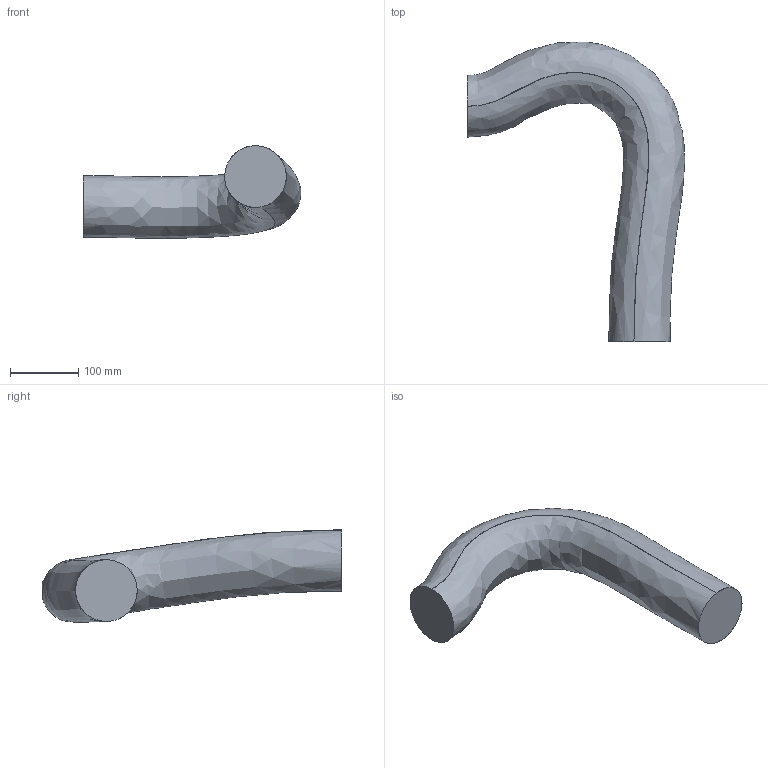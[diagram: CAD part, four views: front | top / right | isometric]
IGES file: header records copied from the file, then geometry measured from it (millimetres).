
Start section: SolidWorks IGES file using analytic representation for surfaces
Global section: file name: C:\Users\SEALDUN\OneDrive - ABB\Documents\R&D Robotics\Work Items\WI 632927\IGES\IRB5710-LID-MH_90kg-230_OC_02_IGES_J\IRB5710-LID_90kg-230_OmniCore_rev00_LINK05_CABLE.igs; native system: SolidWorks 2024; preprocessor: SolidWorks 2024; author: SEALDUN; date: 250707.154213; units: millimetre
Bounding box: 318.01 x 437.93 x 135.14 mm (x, y, z)
Surface area: 191403 mm2 (no closed solid volume)
Topology: 0 solids, 0 shells, 4 faces, 136 edges, 136 vertices
Faces by surface type: bspline 4
